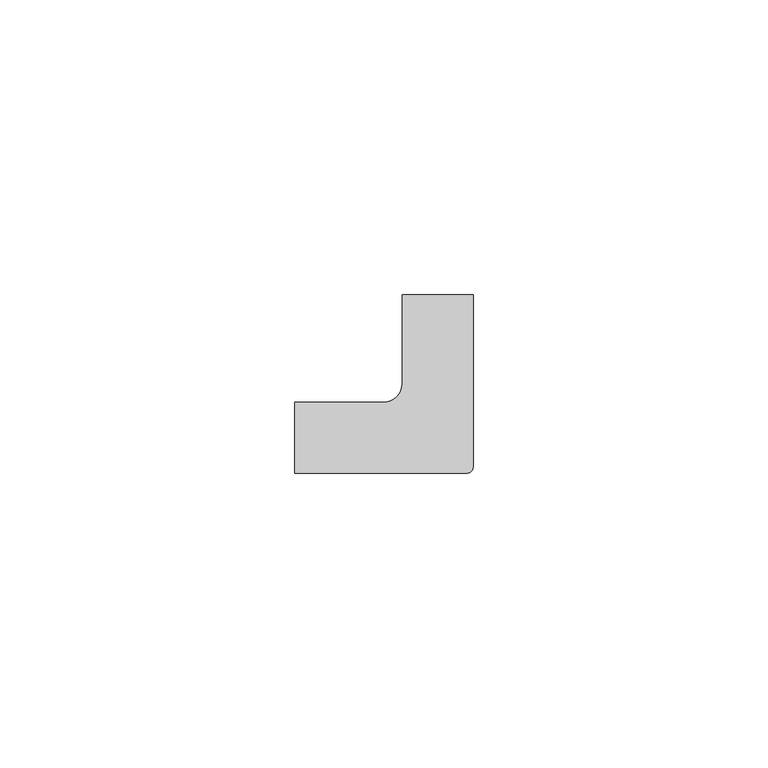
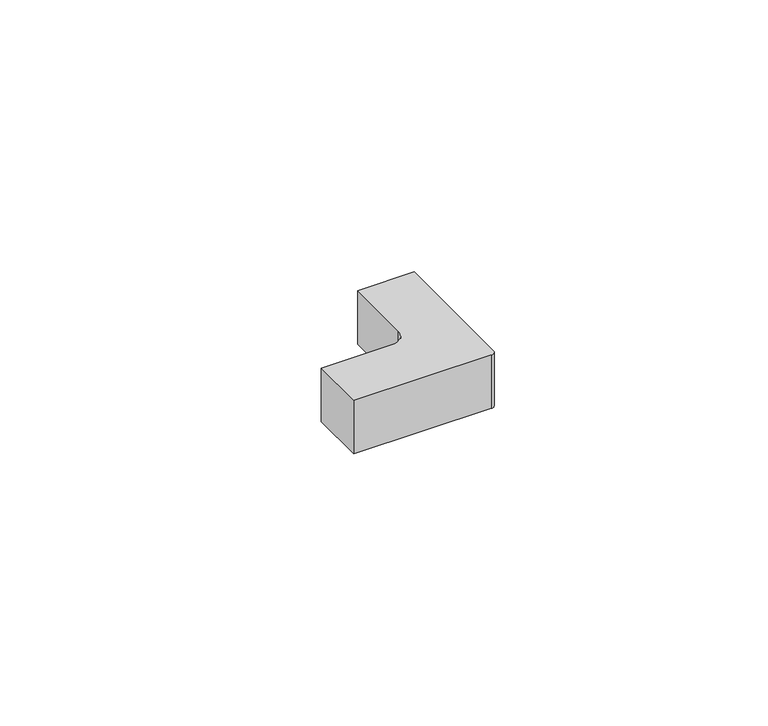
"""IFC4 building model written with IfcOpenShell, lengths in millimetres: duct fitting geometry, Поворот 90 гр. КМП : Поворот 90 гр. КМП."""

from ifc_helpers import new_model, si_unit, point, frame, frame_2d, origin, place, context, project, spatial, polyline, circle_curve, trimmed, segment, composite_curve, outline, extrude, source, transform, mapped, element, save


def duct_fitting_4cc1a555(model_context):
    return source(origin(), model_context, "Body", "SweptSolid", [
        extrude(outline(composite_curve([segment(polyline([(-6.0, 9.18), (-6.0, 24.18), (6.0, 24.18), (6.0, -5.0)]), True, "CONTINUOUS"), segment(trimmed(circle_curve(frame_2d((5.0, -5.0)), 1.0), [point((6.0, -5.0))], [point((5.0, -6.0))], False, "CARTESIAN"), True, "CONTINUOUS"), segment(polyline([(5.0, -6.0), (-24.18, -6.0), (-24.18, 6.0), (-9.18, 6.0)]), True, "CONTINUOUS"), segment(trimmed(circle_curve(frame_2d((-9.18, 9.18)), 3.18), [point((-9.18, 6.0))], [point((-6.0, 9.18))], True, "CARTESIAN"), True, "CONTINUOUS")], self_intersect=False)), frame((0.0, 0.0, -6.0), z_axis=(0.0, 0.0, 1.0), x_axis=(1.0, 0.0, 0.0)), (0.0, 0.0, 1.0), 12.0),
    ])


if __name__ == "__main__":
    model = new_model("IFC4")
    model_context = context("Model", 3, world=origin())
    ifc_project = project(units=[si_unit("LENGTHUNIT", "METRE", prefix="MILLI")], contexts=[model_context])
    site = spatial("IfcSite", under=ifc_project)
    building = spatial("IfcBuilding", under=site)
    placement = place(None, origin())
    duct_fitting_shape = duct_fitting_4cc1a555(model_context)
    element("IfcDuctFitting", 1, ObjectType="Поворот 90 гр. КМП : Поворот 90 гр. КМП", at=placement, inside=building, context=model_context, shape_type="MappedRepresentation", body=[
        mapped(duct_fitting_shape, transform((0.0, 0.0, 0.0), x_axis=(1.0, 0.0, 0.0), y_axis=(0.0, 1.0, 0.0), z_axis=(0.0, 0.0, 1.0))),
    ])
    save(model, "model.ifc")
